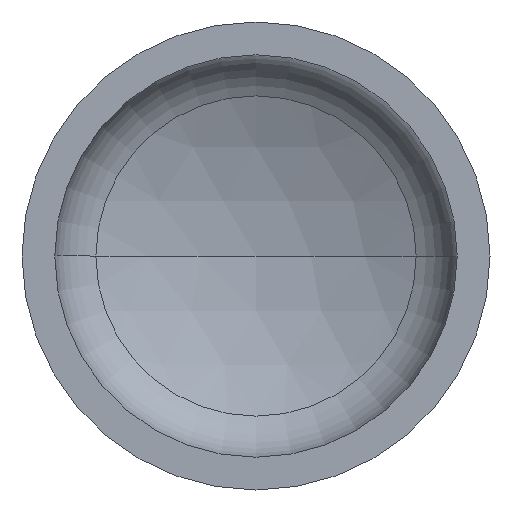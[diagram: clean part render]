
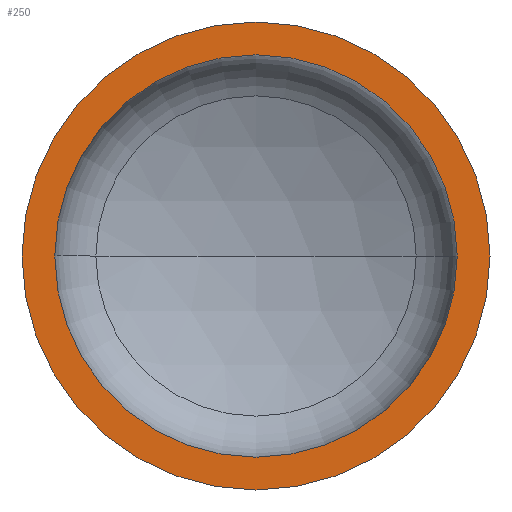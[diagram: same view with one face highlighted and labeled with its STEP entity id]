
A CAD part, front view. The second image highlights one B-rep face of the part: STEP entity #250.
In plain terms, the highlighted planar face has unit normal (0, -1, 0).
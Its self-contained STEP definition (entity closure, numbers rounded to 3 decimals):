
#3 = EDGE_LOOP ( 'NONE', ( #26, #79 ) ) ;
#11 = AXIS2_PLACEMENT_3D ( 'NONE', #159, #161, #283 ) ;
#26 = ORIENTED_EDGE ( 'NONE', *, *, #94, .T. ) ;
#46 = VERTEX_POINT ( 'NONE', #295 ) ;
#52 = AXIS2_PLACEMENT_3D ( 'NONE', #123, #204, #214 ) ;
#54 = EDGE_LOOP ( 'NONE', ( #136, #93 ) ) ;
#74 = AXIS2_PLACEMENT_3D ( 'NONE', #191, #201, #202 ) ;
#77 = AXIS2_PLACEMENT_3D ( 'NONE', #317, #316, #298 ) ;
#79 = ORIENTED_EDGE ( 'NONE', *, *, #117, .T. ) ;
#91 = AXIS2_PLACEMENT_3D ( 'NONE', #346, #344, #341 ) ;
#93 = ORIENTED_EDGE ( 'NONE', *, *, #408, .F. ) ;
#94 = EDGE_CURVE ( 'NONE', #116, #128, #228, .T. ) ;
#116 = VERTEX_POINT ( 'NONE', #209 ) ;
#117 = EDGE_CURVE ( 'NONE', #128, #116, #329, .T. ) ;
#120 = EDGE_CURVE ( 'NONE', #46, #166, #390, .T. ) ;
#123 = CARTESIAN_POINT ( 'NONE',  ( -700., 0., 0. ) ) ;
#128 = VERTEX_POINT ( 'NONE', #297 ) ;
#136 = ORIENTED_EDGE ( 'NONE', *, *, #120, .F. ) ;
#159 = CARTESIAN_POINT ( 'NONE',  ( 0., 0., 0. ) ) ;
#161 = DIRECTION ( 'NONE',  ( 0., -1., 0. ) ) ;
#166 = VERTEX_POINT ( 'NONE', #199 ) ;
#191 = CARTESIAN_POINT ( 'NONE',  ( 0., 0., 0. ) ) ;
#193 = PLANE ( 'NONE',  #52 ) ;
#199 = CARTESIAN_POINT ( 'NONE',  ( -602., 0., 0. ) ) ;
#201 = DIRECTION ( 'NONE',  ( 0., -1., 0. ) ) ;
#202 = DIRECTION ( 'NONE',  ( 1., 0., 0. ) ) ;
#204 = DIRECTION ( 'NONE',  ( 0., 1., 0. ) ) ;
#209 = CARTESIAN_POINT ( 'NONE',  ( 700., 0., 0. ) ) ;
#211 = CIRCLE ( 'NONE', #11, 602. ) ;
#214 = DIRECTION ( 'NONE',  ( -1., 0., 0. ) ) ;
#228 = CIRCLE ( 'NONE', #91, 700. ) ;
#250 = ADVANCED_FACE ( 'NONE', ( #305, #385 ), #193, .F. ) ;
#283 = DIRECTION ( 'NONE',  ( 1., 0., 0. ) ) ;
#295 = CARTESIAN_POINT ( 'NONE',  ( 602., 0., 0. ) ) ;
#297 = CARTESIAN_POINT ( 'NONE',  ( -700., 0., 0. ) ) ;
#298 = DIRECTION ( 'NONE',  ( 1., 0., 0. ) ) ;
#305 = FACE_BOUND ( 'NONE', #54, .T. ) ;
#316 = DIRECTION ( 'NONE',  ( 0., -1., 0. ) ) ;
#317 = CARTESIAN_POINT ( 'NONE',  ( 0., 0., 0. ) ) ;
#329 = CIRCLE ( 'NONE', #77, 700. ) ;
#341 = DIRECTION ( 'NONE',  ( 1., 0., 0. ) ) ;
#344 = DIRECTION ( 'NONE',  ( 0., -1., 0. ) ) ;
#346 = CARTESIAN_POINT ( 'NONE',  ( 0., 0., 0. ) ) ;
#385 = FACE_OUTER_BOUND ( 'NONE', #3, .T. ) ;
#390 = CIRCLE ( 'NONE', #74, 602. ) ;
#408 = EDGE_CURVE ( 'NONE', #166, #46, #211, .T. ) ;
